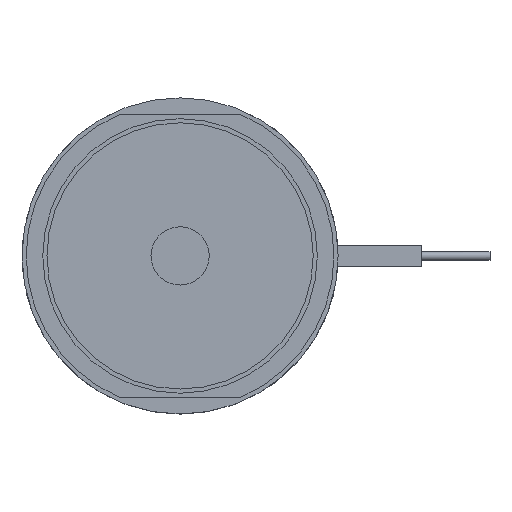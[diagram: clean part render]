
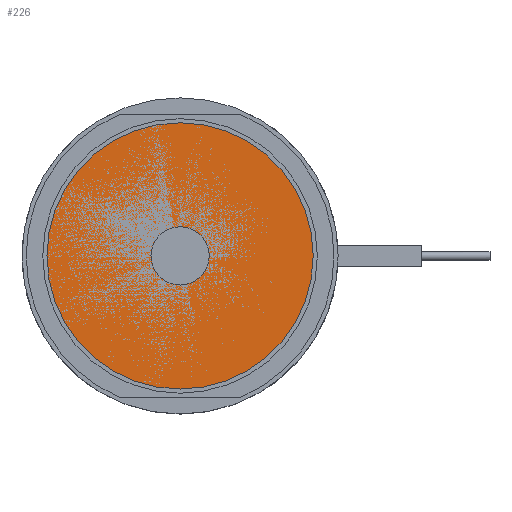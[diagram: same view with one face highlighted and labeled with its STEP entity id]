
A CAD part, top view. The second image highlights one B-rep face of the part: STEP entity #226.
In plain terms, the highlighted planar face has unit normal (0, 0, 1).
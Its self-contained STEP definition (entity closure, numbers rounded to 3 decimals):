
#163=FACE_BOUND('',#386,.T.);
#226=ADVANCED_FACE('',(#321,#163),#279,.T.);
#279=PLANE('',#1101);
#321=FACE_OUTER_BOUND('',#385,.T.);
#385=EDGE_LOOP('',(#624));
#386=EDGE_LOOP('',(#625));
#488=CIRCLE('',#1098,16.);
#489=CIRCLE('',#1100,3.5);
#624=ORIENTED_EDGE('',*,*,#920,.T.);
#625=ORIENTED_EDGE('',*,*,#921,.F.);
#810=VERTEX_POINT('',#1823);
#811=VERTEX_POINT('',#1826);
#920=EDGE_CURVE('',#810,#810,#488,.T.);
#921=EDGE_CURVE('',#811,#811,#489,.T.);
#1098=AXIS2_PLACEMENT_3D('',#1822,#1320,#1321);
#1100=AXIS2_PLACEMENT_3D('',#1825,#1324,#1325);
#1101=AXIS2_PLACEMENT_3D('',#1827,#1326,#1327);
#1320=DIRECTION('',(0.,0.,1.));
#1321=DIRECTION('',(1.,0.,0.));
#1324=DIRECTION('',(0.,0.,1.));
#1325=DIRECTION('',(1.,0.,0.));
#1326=DIRECTION('',(0.,0.,1.));
#1327=DIRECTION('',(1.,0.,0.));
#1822=CARTESIAN_POINT('',(0.,0.,0.));
#1823=CARTESIAN_POINT('',(16.,0.,0.));
#1825=CARTESIAN_POINT('',(0.,0.,0.));
#1826=CARTESIAN_POINT('',(3.5,0.,0.));
#1827=CARTESIAN_POINT('',(-3.5,0.,0.));
